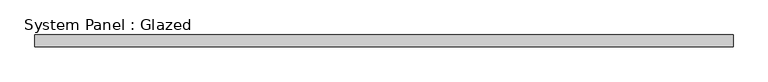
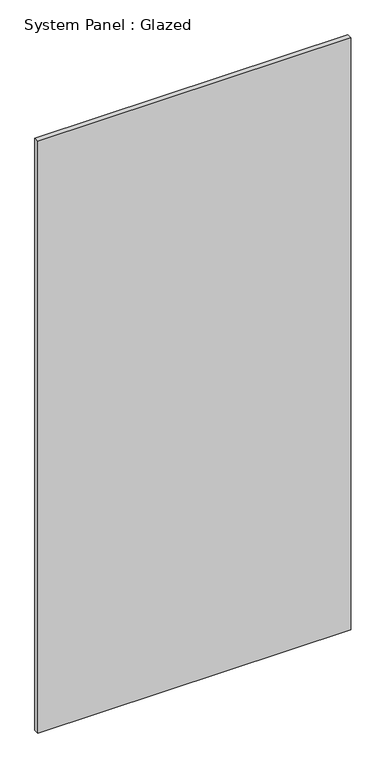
"""IFC4 building model written with IfcOpenShell, lengths in millimetres: plate geometry, System Panel : Glazed."""

import ifcopenshell
import ifcopenshell.guid

model = None  # the IFC model being written
_history = None  # IfcOwnerHistory: only IFC2X3 demands one
_inside = {}  # id of a spatial element -> (the spatial element, [elements in it])
_under = {}  # id of a project, library or spatial element -> (it, [spatial elements below it])
_declared = {}  # id of a project -> (the project, [libraries it declares])
_typed = {}  # id of a type object -> (the type object, [elements of that type])
_made_of = {}  # id of a material, layer set ... -> (it, [elements and type objects made of it])


def new_model(schema):
    """Start an empty IFC model of exactly this schema.

    Asked for "IFC4X3", IfcOpenShell would pick the latest addendum, in which some entities
    have other attributes; the version numbers below select the first issue.
    IFC2X3 requires an IfcOwnerHistory on every rooted entity: one is made here for all.
    """
    global model, _history
    if schema == "IFC4X3":
        model = ifcopenshell.file(schema_version=(4, 3, 0, 0))
    else:
        model = ifcopenshell.file(schema=schema)
    _inside.clear()
    _under.clear()
    _declared.clear()
    _typed.clear()
    _made_of.clear()
    _history = None
    if model.schema == "IFC2X3":
        org = make("IfcOrganization", Name="unknown")
        user = make(
            "IfcPersonAndOrganization",
            ThePerson=make("IfcPerson", FamilyName="unknown"),
            TheOrganization=org,
        )
        app = make(
            "IfcApplication",
            ApplicationDeveloper=org,
            Version="unknown",
            ApplicationFullName="unknown",
            ApplicationIdentifier="unknown",
        )
        _history = make(
            "IfcOwnerHistory",
            OwningUser=user,
            OwningApplication=app,
            ChangeAction="ADDED",
            CreationDate=0,
        )
    return model


def make(cls, **values):
    """One entity of the class cls with the attributes given. An attribute that is None is left unset."""
    return model.create_entity(
        cls, **{name: value for name, value in values.items() if value is not None}
    )


def rooted(cls, **values):
    """An entity with a GlobalId (a new one), such as an element, a storey or a relation."""
    return make(cls, GlobalId=ifcopenshell.guid.new(), OwnerHistory=_history, **values)


def si_unit(unit_type, name, prefix=None):
    """IfcSIUnit, for example si_unit("LENGTHUNIT", "METRE", prefix="MILLI")."""
    return make("IfcSIUnit", UnitType=unit_type, Prefix=prefix, Name=name)


def assignment(units):
    """IfcUnitAssignment: the units of a project."""
    return None if units is None else make("IfcUnitAssignment", Units=units)


def point(xyz):
    """IfcCartesianPoint."""
    return None if xyz is None else make("IfcCartesianPoint", Coordinates=xyz)


def direction(xyz):
    """IfcDirection."""
    return None if xyz is None else make("IfcDirection", DirectionRatios=xyz)


def frame(location, z_axis=None, x_axis=None):
    """IfcAxis2Placement3D, a coordinate frame: its origin and axes. An axis left out is left unset."""
    return make(
        "IfcAxis2Placement3D",
        Location=point(location),
        Axis=direction(z_axis),
        RefDirection=direction(x_axis),
    )


def origin():
    """The frame at (0, 0, 0) with its axes left unset."""
    return frame((0.0, 0.0, 0.0))


def origin_with_axes():
    """The frame at (0, 0, 0) with the z axis (0, 0, 1) and the x axis (1, 0, 0) written out."""
    return frame((0.0, 0.0, 0.0), z_axis=(0.0, 0.0, 1.0), x_axis=(1.0, 0.0, 0.0))


def place(relative_to, where):
    """IfcLocalPlacement: puts the frame where relative to a parent placement (None: the world)."""
    return make(
        "IfcLocalPlacement", PlacementRelTo=relative_to, RelativePlacement=where
    )


def context(
    kind, dimensions, precision=None, world=None, true_north=None, identifier=None
):
    """IfcGeometricRepresentationContext, for example the 3D "Model" context."""
    return make(
        "IfcGeometricRepresentationContext",
        ContextIdentifier=identifier,
        ContextType=kind,
        CoordinateSpaceDimension=dimensions,
        Precision=precision,
        WorldCoordinateSystem=world,
        TrueNorth=true_north,
    )


def project(units=None, contexts=None):
    """IfcProject with its units and contexts."""
    return rooted(
        "IfcProject",
        Name="project",
        RepresentationContexts=contexts,
        UnitsInContext=assignment(units),
    )


def spatial(cls, under=None, at=None, **own):
    """A site, building, storey or space (cls), placed at a placement, below another one or the project."""
    s = rooted(cls, ObjectPlacement=at, **own)
    if under is not None:
        _under.setdefault(under.id(), (under, []))[1].append(s)
    return s


def polyline(points):
    """IfcPolyline through the points."""
    return make("IfcPolyline", Points=[point(p) for p in points])


def outline(outer, holes=None, kind="AREA"):
    """IfcArbitraryClosedProfileDef: a profile drawn as a closed curve; with holes, ...WithVoids."""
    if holes is None:
        return make("IfcArbitraryClosedProfileDef", ProfileType=kind, OuterCurve=outer)
    return make(
        "IfcArbitraryProfileDefWithVoids",
        ProfileType=kind,
        OuterCurve=outer,
        InnerCurves=holes,
    )


def extrude(swept, where, along, depth):
    """IfcExtrudedAreaSolid: the profile swept, set in the frame where, extruded along a direction by depth."""
    return make(
        "IfcExtrudedAreaSolid",
        SweptArea=swept,
        Position=where,
        ExtrudedDirection=direction(along),
        Depth=depth,
    )


def shape(context_of_items, identifier, shape_type, items):
    """IfcShapeRepresentation: the items that make up one representation, for example the "Body"."""
    return make(
        "IfcShapeRepresentation",
        ContextOfItems=context_of_items,
        RepresentationIdentifier=identifier,
        RepresentationType=shape_type,
        Items=items,
    )


def source(mapping_origin, context_of_items, identifier, shape_type, items):
    """IfcRepresentationMap: a shape defined once, which mapped items show again and again."""
    return make(
        "IfcRepresentationMap",
        MappingOrigin=mapping_origin,
        MappedRepresentation=shape(context_of_items, identifier, shape_type, items),
    )


def transform(
    local_origin,
    x_axis=None,
    y_axis=None,
    z_axis=None,
    scale=None,
    scale2=None,
    scale3=None,
    uniform=True,
):
    """IfcCartesianTransformationOperator3D, or its non-uniform kind. x_axis, y_axis, z_axis: its Axis1, 2, 3."""
    if uniform:
        return make(
            "IfcCartesianTransformationOperator3D",
            Axis1=direction(x_axis),
            Axis2=direction(y_axis),
            LocalOrigin=point(local_origin),
            Scale=scale,
            Axis3=direction(z_axis),
        )
    return make(
        "IfcCartesianTransformationOperator3DnonUniform",
        Axis1=direction(x_axis),
        Axis2=direction(y_axis),
        LocalOrigin=point(local_origin),
        Scale=scale,
        Axis3=direction(z_axis),
        Scale2=scale2,
        Scale3=scale3,
    )


def mapped(mapping_source, mapping_target):
    """IfcMappedItem: shows the shape of a source again, moved by a transform."""
    return make(
        "IfcMappedItem", MappingSource=mapping_source, MappingTarget=mapping_target
    )


def made_of(thing, what):
    """Note that an element or type object is made of a material, layer set ...; save() writes the relation."""
    if what is not None:
        _made_of.setdefault(what.id(), (what, []))[1].append(thing)
    return thing


def element(
    cls,
    number,
    at=None,
    inside=None,
    cuts=None,
    type_object=None,
    material=None,
    context=None,
    identifier="Body",
    shape_type=None,
    held_by="IfcProductDefinitionShape",
    body=None,
    shapes=None,
    **own,
):
    """One element of the class cls, such as IfcWall. Its Tag is "e" and its number.

    at: its placement. inside: the storey or other place that contains it. cuts: it is an
    opening in that element (IfcRelVoidsElement). A single representation is given by context,
    identifier, shape_type and body (its items); several are given by shapes. held_by: the class
    of the entity that holds the representations. save() writes the other relations.
    """
    e = rooted(cls, Tag="e%d" % number, ObjectPlacement=at, **own)
    if body is not None:
        shapes = [shape(context, identifier, shape_type, body)]
    if shapes is not None:
        e.Representation = make(held_by, Representations=shapes)
    if inside is not None:
        _inside.setdefault(inside.id(), (inside, []))[1].append(e)
    if cuts is not None:
        rooted(
            "IfcRelVoidsElement", RelatingBuildingElement=cuts, RelatedOpeningElement=e
        )
    if type_object is not None:
        _typed.setdefault(type_object.id(), (type_object, []))[1].append(e)
    return made_of(e, material)


def aggregate(whole, parts):
    """IfcRelAggregates: a whole, such as a stair, and the parts it consists of."""
    return rooted("IfcRelAggregates", RelatingObject=whole, RelatedObjects=parts)


def save(model, path):
    """Write the relations noted so far, then the file.

    IfcRelAggregates (storeys below a building ...), IfcRelContainedInSpatialStructure (elements
    in a storey), IfcRelDefinesByType, IfcRelAssociatesMaterial and IfcRelDeclares: one each for
    every whole, place, type object, material and project.
    """
    for whole, parts in _under.values():
        aggregate(whole, parts)
    for where, things in _inside.values():
        rooted(
            "IfcRelContainedInSpatialStructure",
            RelatedElements=things,
            RelatingStructure=where,
        )
    for kind, things in _typed.values():
        rooted("IfcRelDefinesByType", RelatedObjects=things, RelatingType=kind)
    for what, things in _made_of.values():
        rooted("IfcRelAssociatesMaterial", RelatedObjects=things, RelatingMaterial=what)
    for by, libraries in _declared.values():
        rooted("IfcRelDeclares", RelatingContext=by, RelatedDefinitions=libraries)
    model.write(path)


def system_panel_glazed_d5d3c74f(model_context):
    return source(origin(), model_context, "Body", "SweptSolid", [
        extrude(outline(polyline([(762.0, 19.05), (-762.0, 19.05), (-762.0, 44.45), (762.0, 44.45), (762.0, 19.05)])), origin_with_axes(), (0.0, 0.0, 1.0), 3048.0),
    ])


if __name__ == "__main__":
    model = new_model("IFC4")
    model_context = context("Model", 3, world=origin())
    ifc_project = project(units=[si_unit("LENGTHUNIT", "METRE", prefix="MILLI")], contexts=[model_context])
    site = spatial("IfcSite", under=ifc_project)
    building = spatial("IfcBuilding", under=site)
    placement = place(None, origin())
    system_panel_glazed_shape = system_panel_glazed_d5d3c74f(model_context)
    element("IfcPlate", 1, ObjectType="System Panel : Glazed", at=placement, inside=building, context=model_context, shape_type="MappedRepresentation", body=[
        mapped(system_panel_glazed_shape, transform((0.0, 0.0, 0.0), x_axis=(1.0, 0.0, 0.0), y_axis=(0.0, 1.0, 0.0), z_axis=(0.0, 0.0, 1.0))),
    ])
    save(model, "model.ifc")
